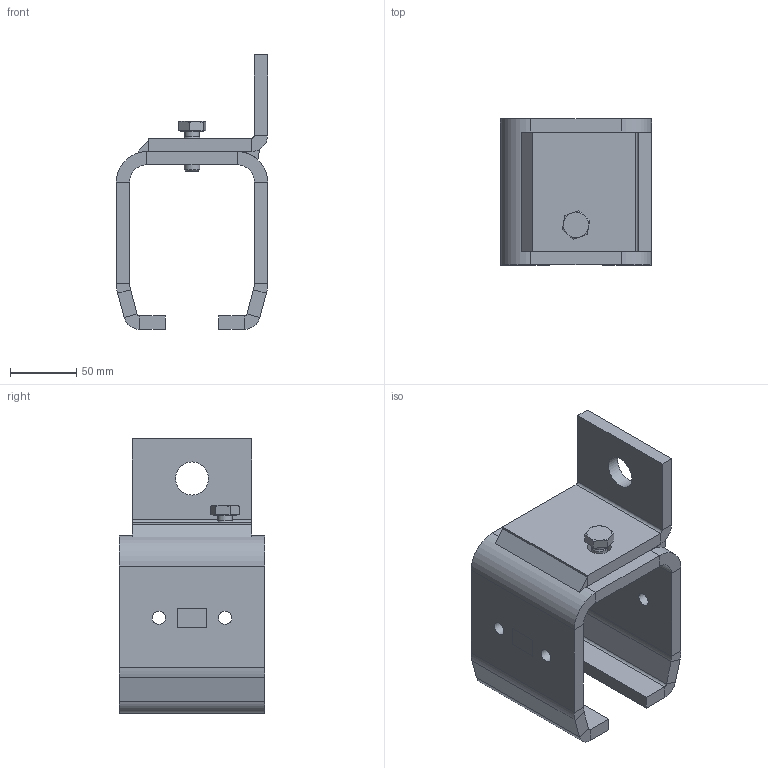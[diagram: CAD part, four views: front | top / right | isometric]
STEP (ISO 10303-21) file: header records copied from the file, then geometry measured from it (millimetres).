
FILE_DESCRIPTION(/* description */ ('Wandbefestigung Nr.5'),/* implementation_level */ '2;1');
FILE_NAME(/* name */ 'Q:\sge-ma\Produktmanagement-STB\STB\Workspace\stp\010335690.stp',/* time_stamp */ '2015-07-09T13:48:47+02:00',/* author */ ('avschreier'),/* organization */ (''),/* preprocessor_version */ 'ST-DEVELOPER v15.6',/* originating_system */ 'Autodesk Inventor 2015',/* authorisation */ '');
FILE_SCHEMA (('CONFIG_CONTROL_DESIGN'));
Length unit declared in the file: millimetre
Products named in the file (5): 010335690_Schweißnähte; 337000125; 337000157; DIN_EN_ISO_4017-M12x30_en; 010335690
Bounding box: 114 x 110 x 207 mm (x, y, z)
Volume: 558245.5 mm3; surface area: 136070.7 mm2
Topology: 5 solids, 5 shells, 114 faces, 239 edges, 138 vertices
Faces by surface type: plane 78, cylinder 28, cone 8
Full cylindrical faces by diameter (mm): 10 x5, 10.106 x1, 11.053 x1, 12 x1, 17.2 x1, 18 x1, 25 x1
Entity records: 3023 total; most frequent: DIRECTION 522, CARTESIAN_POINT 509, ORIENTED_EDGE 450, EDGE_CURVE 225, AXIS2_PLACEMENT_3D 186, LINE 150, VECTOR 150, EDGE_LOOP 146
